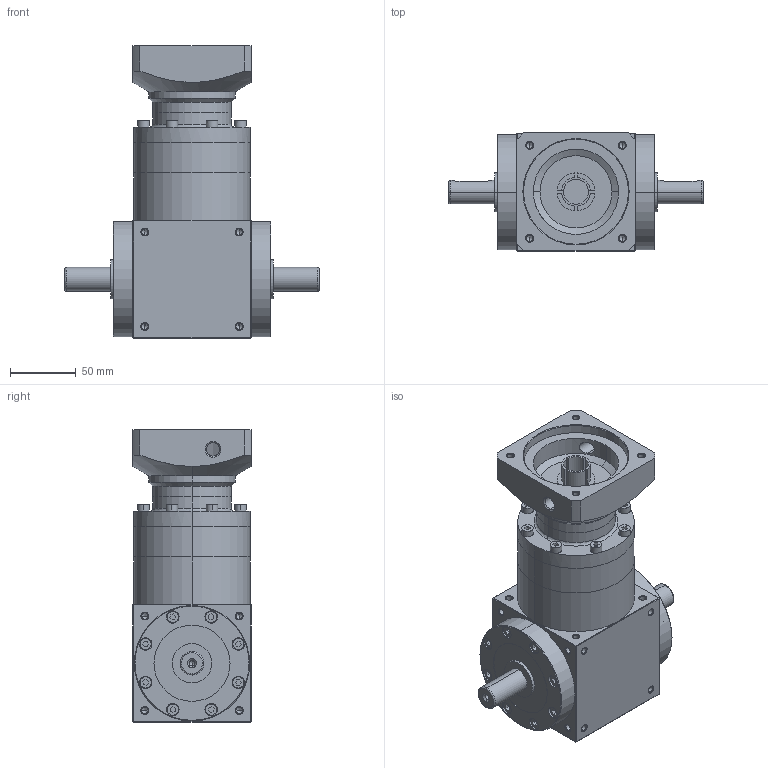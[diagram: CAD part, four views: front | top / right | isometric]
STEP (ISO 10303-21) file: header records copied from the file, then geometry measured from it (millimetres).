
FILE_DESCRIPTION (( 'STEP AP203' ), '1' );
FILE_NAME ('AT090-FL-L3-19-80-100M6.STEP', '2025-12-10T07:02:02', ( 'Windows User' ), ( 'P R C' ), 'SwSTEP 2.0', 'SolidWorks 2016', '' );
FILE_SCHEMA (( 'CONFIG_CONTROL_DESIGN' ));
Length unit declared in the file: millimetre
Products named in the file (6): AT90-转角箱体-双轴-输出; AT90蛌倰怀堤楊擘; AT90单级齿圈; AT90双级齿圈; AT90输入法兰-F-80-M6-100; AT090-FL-L3-19-80-100M6
Assembly tree (5 placements, depth 2):
  AT090-FL-L3-19-80-100M6
    AT90-转角箱体-双轴-输出
    AT90蛌倰怀堤楊擘
    AT90单级齿圈
    AT90双级齿圈
    AT90输入法兰-F-80-M6-100
Bounding box: 194 x 90 x 223 mm (x, y, z)
Volume: 1213047.1 mm3; surface area: 204651.7 mm2
Topology: 5 solids, 17 shells, 1459 faces, 3689 edges, 2318 vertices
Faces by surface type: plane 726, cylinder 302, cone 239, bspline 192
Entity records: 52635 total; most frequent: CARTESIAN_POINT 18710, ORIENTED_EDGE 7182, DIRECTION 6255, EDGE_CURVE 3591, VECTOR 2331, LINE 2331, VERTEX_POINT 2317, AXIS2_PLACEMENT_3D 1962
